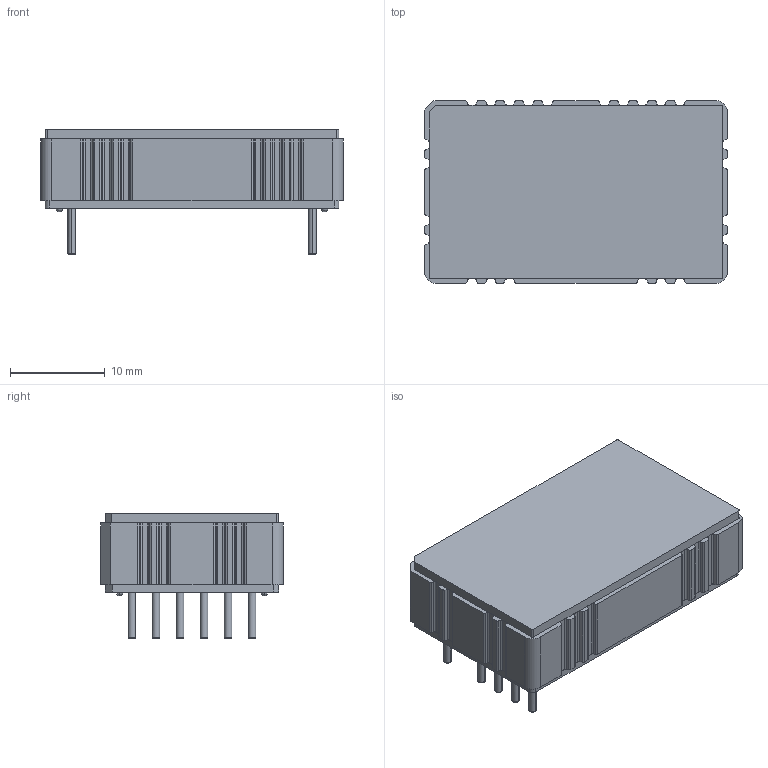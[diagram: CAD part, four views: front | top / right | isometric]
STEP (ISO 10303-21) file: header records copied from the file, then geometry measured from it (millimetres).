
FILE_DESCRIPTION (( 'STEP AP214' ), '1' );
FILE_NAME ('MTC05.STEP', '2016-09-27T21:13:22', ( '' ), ( '' ), 'SwSTEP 2.0', 'SolidWorks 2016', '' );
FILE_SCHEMA (( 'AUTOMOTIVE_DESIGN' ));
Length unit declared in the file: inch
Products named in the file (9): 01 25 10 5100 4_A00; 01 25 10 5300 8_A00; 01 25 10 1200 2_A00; 01 25 10 1100 9_E00; 01 25 10 5020 8_A01; MTC05; 01 25 10 5500 3_A00; 01 25 10 5001 6_E01; 01 25 10 5010 5_A00
Assembly tree (16 placements, depth 3):
  MTC05
    01 25 10 5020 8_A01
    01 25 10 1100 9_E00
    01 25 10 1200 2_A00
    01 25 10 5300 8_A00
    01 25 10 5001 6_E01
      01 25 10 5100 4_A00
      01 25 10 5010 5_A00
    01 25 10 5500 3_A00  x9
Bounding box: 32 x 19.3 x 13.2 mm (x, y, z)
Volume: 2351.3 mm3; surface area: 7365.4 mm2
Topology: 14 solids, 15 shells, 883 faces, 2422 edges, 1584 vertices
Faces by surface type: cylinder 432, plane 367, bspline 84
Entity records: 23028 total; most frequent: CARTESIAN_POINT 4494, DIRECTION 3898, ORIENTED_EDGE 3736, EDGE_CURVE 1870, AXIS2_PLACEMENT_3D 1384, VERTEX_POINT 1232, LINE 1130, VECTOR 1130
